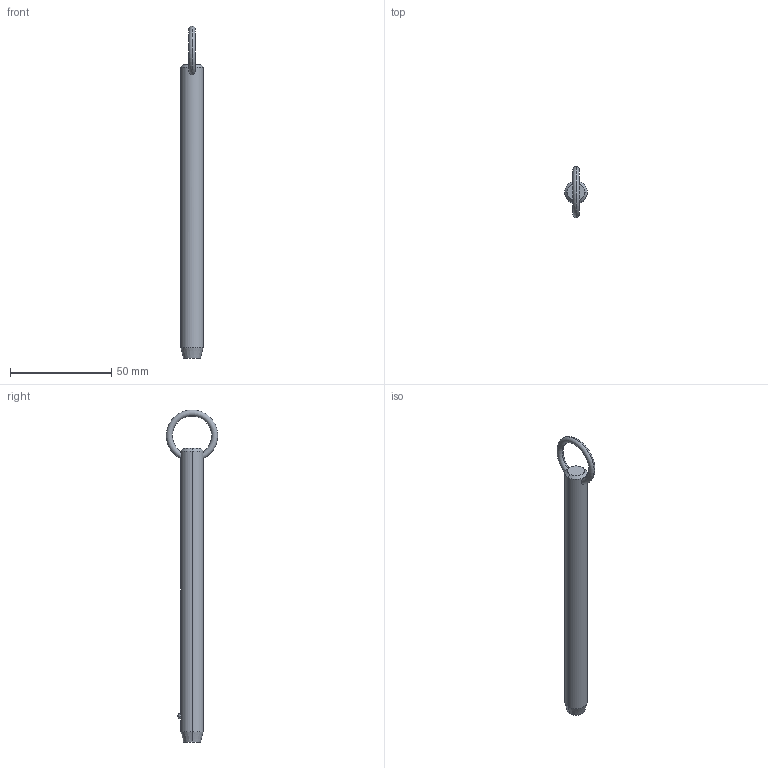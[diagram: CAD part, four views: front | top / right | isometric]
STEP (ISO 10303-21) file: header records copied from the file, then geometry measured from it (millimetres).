
FILE_DESCRIPTION (( 'STEP AP203' ), '1' );
FILE_NAME ('P1250.050-490.step', '2019-07-29T20:38:18', ( '' ), ( '' ), 'SwSTEP 2.0', 'SolidWorks 2017', '' );
FILE_SCHEMA (( 'CONFIG_CONTROL_DESIGN' ));
Length unit declared in the file: millimetre
Products named in the file (1): P1250.050-490
Bounding box: 11.1 x 25.32 x 164.05 mm (x, y, z)
Volume: 14323.9 mm3; surface area: 5712.5 mm2
Topology: 1 solids, 1 shells, 12 faces, 28 edges, 17 vertices
Faces by surface type: cone 4, torus 2, sphere 2, cylinder 2, plane 2
Entity records: 523 total; most frequent: CARTESIAN_POINT 190, DIRECTION 56, ORIENTED_EDGE 48, AXIS2_PLACEMENT_3D 25, EDGE_CURVE 24, EDGE_LOOP 15, VERTEX_POINT 15, FACE_OUTER_BOUND 12
